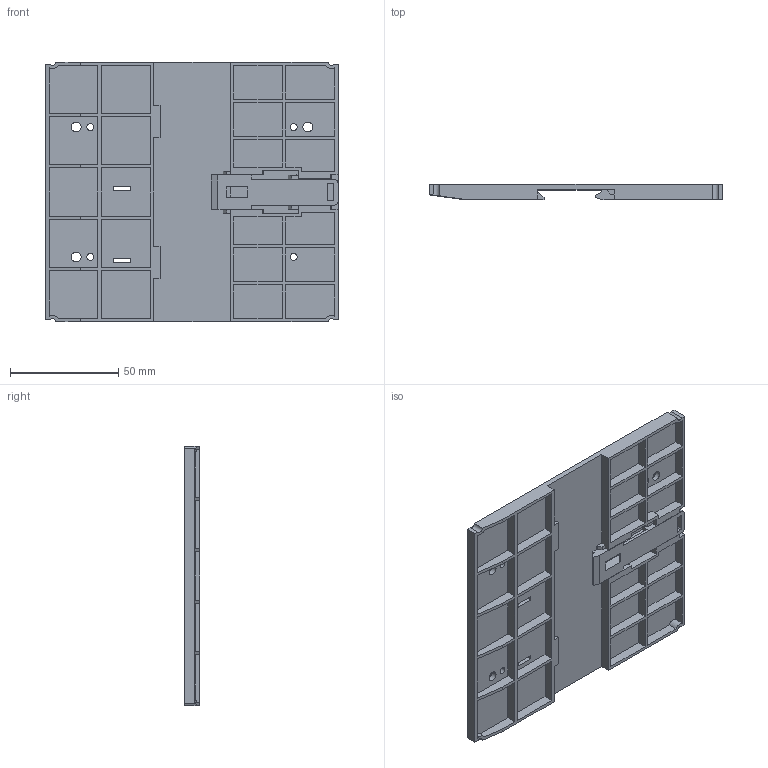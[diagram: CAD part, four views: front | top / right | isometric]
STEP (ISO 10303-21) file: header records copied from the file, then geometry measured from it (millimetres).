
FILE_DESCRIPTION (( 'STEP AP203' ), '1' );
FILE_NAME ('4撰絳寢.STEP', '2024-09-26T03:34:10', ( 'A' ), ( '' ), 'SwSTEP 2.0', 'SolidWorks 2018', '' );
FILE_SCHEMA (( 'CONFIG_CONTROL_DESIGN' ));
Length unit declared in the file: millimetre
Products named in the file (3): 8LD.056.1001; 8LD.140.1000; 4撰絳寢
Assembly tree (2 placements, depth 2):
  4撰絳寢
    8LD.056.1001
    8LD.140.1000
Bounding box: 135 x 7 x 120 mm (x, y, z)
Volume: 50480.5 mm3; surface area: 47952.2 mm2
Topology: 2 solids, 2 shells, 283 faces, 795 edges, 530 vertices
Faces by surface type: plane 255, cylinder 28
Entity records: 9353 total; most frequent: CARTESIAN_POINT 1628, ORIENTED_EDGE 1590, DIRECTION 1417, EDGE_CURVE 795, LINE 739, VECTOR 739, VERTEX_POINT 530, AXIS2_PLACEMENT_3D 339
